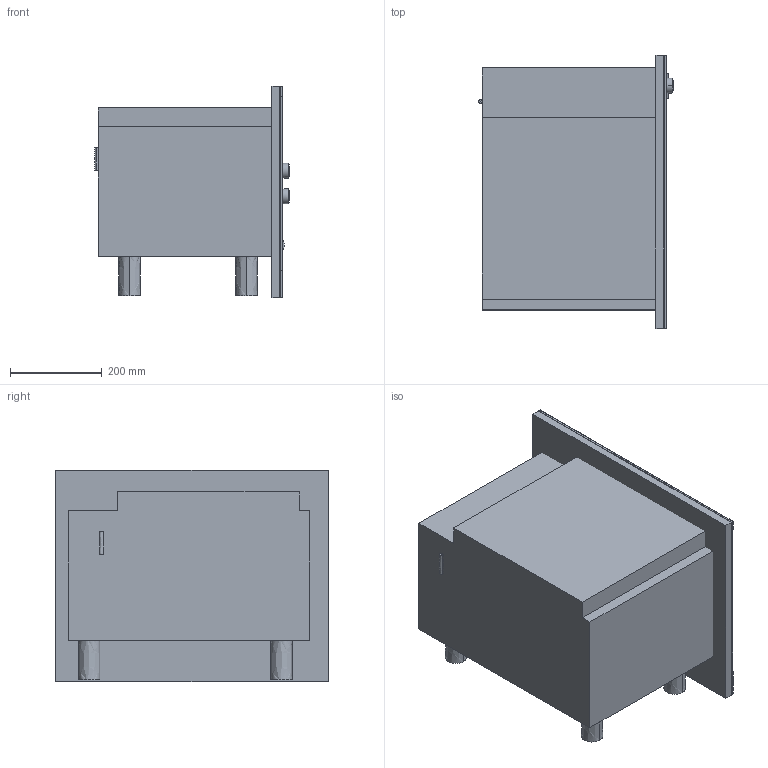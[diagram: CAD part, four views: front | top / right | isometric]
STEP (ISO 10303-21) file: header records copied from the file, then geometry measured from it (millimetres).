
FILE_DESCRIPTION(/* description */ (''),/* implementation_level */ '2;1');
FILE_NAME(/* name */ 'M6040_CLST',/* time_stamp */ '2013-04-22T14:50:14+02:00',/* author */ (''),/* organization */ (''),/* preprocessor_version */ 'ST-DEVELOPER v10',/* originating_system */ '',/* authorisation */ '');
FILE_SCHEMA (('AUTOMOTIVE_DESIGN_CC2'));
Length unit declared in the file: millimetre
Products named in the file (1): 1
Bounding box: 424.95 x 595.25 x 461.36 mm (x, y, z)
Volume: 49793848.9 mm3; surface area: 2410839.5 mm2
Topology: 17 solids, 17 shells, 129 faces, 286 edges, 168 vertices
Faces by surface type: bspline 129
Entity records: 4977 total; most frequent: CARTESIAN_POINT 3097, ORIENTED_EDGE 524, EDGE_CURVE 262, B_SPLINE_CURVE_WITH_KNOTS 230, VERTEX_POINT 168, EDGE_LOOP 132, ADVANCED_FACE 129, FACE_OUTER_BOUND 129
